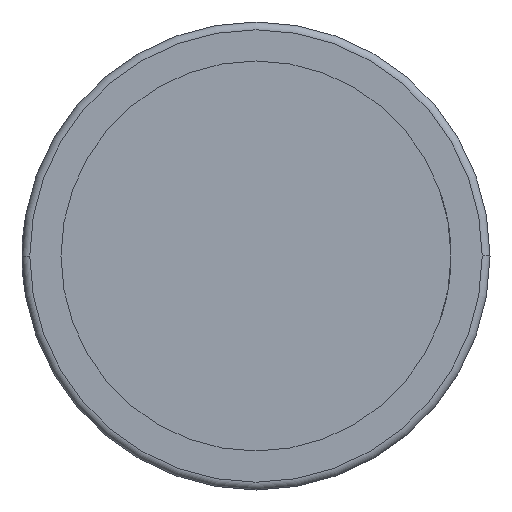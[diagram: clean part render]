
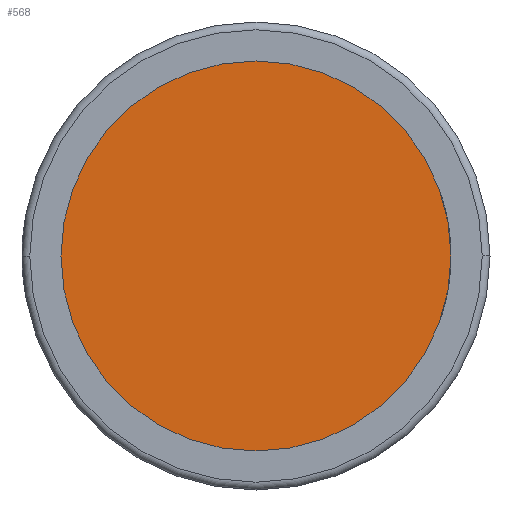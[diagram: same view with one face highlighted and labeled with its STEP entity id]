
A CAD part, front view. The second image highlights one B-rep face of the part: STEP entity #568.
In plain terms, the highlighted planar face has unit normal (0, -1, 0).
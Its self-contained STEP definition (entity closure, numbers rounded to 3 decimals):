
#54=CARTESIAN_POINT('',(0.,0.,0.));
#55=DIRECTION('',(0.,-1.,0.));
#56=DIRECTION('',(1.,0.,0.));
#57=AXIS2_PLACEMENT_3D('',#54,#55,#56);
#125=CARTESIAN_POINT('',(0.,0.,0.));
#126=DIRECTION('',(0.,1.,0.));
#127=DIRECTION('',(1.,0.,0.));
#128=AXIS2_PLACEMENT_3D('',#125,#126,#127);
#513=CARTESIAN_POINT('',(-5.,0.,0.));
#515=VERTEX_POINT('',#513);
#517=CARTESIAN_POINT('',(5.,0.,0.));
#518=VERTEX_POINT('',#517);
#557=CARTESIAN_POINT('',(0.,0.,0.));
#558=DIRECTION('',(0.,-1.,0.));
#559=DIRECTION('',(-1.,0.,0.));
#560=AXIS2_PLACEMENT_3D('',#557,#558,#559);
#561=PLANE('',#560);
#563=ORIENTED_EDGE('',*,*,#562,.F.);
#565=ORIENTED_EDGE('',*,*,#564,.T.);
#566=EDGE_LOOP('',(#563,#565));
#567=FACE_OUTER_BOUND('',#566,.F.);
#58=CIRCLE('',#57,5.);
#129=CIRCLE('',#128,5.);
#562=EDGE_CURVE('',#518,#515,#58,.T.);
#564=EDGE_CURVE('',#518,#515,#129,.T.);
#568=ADVANCED_FACE('',(#567),#561,.T.);
